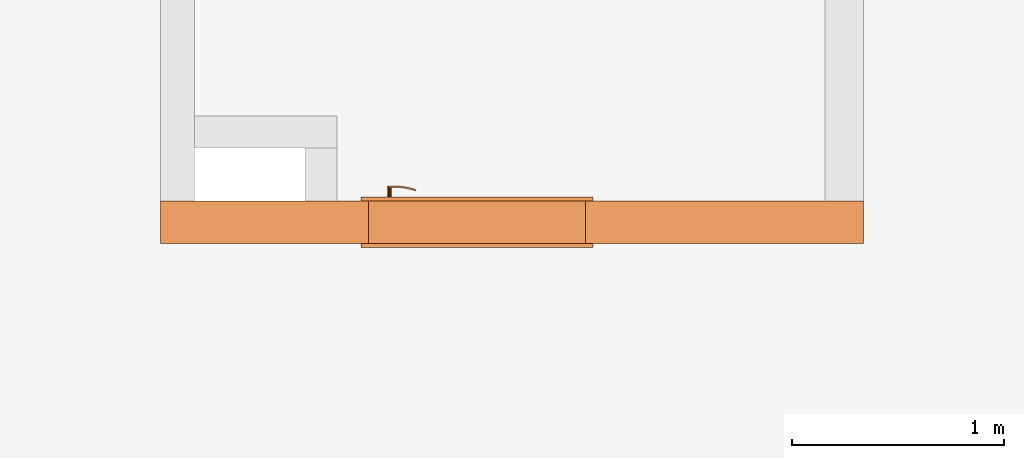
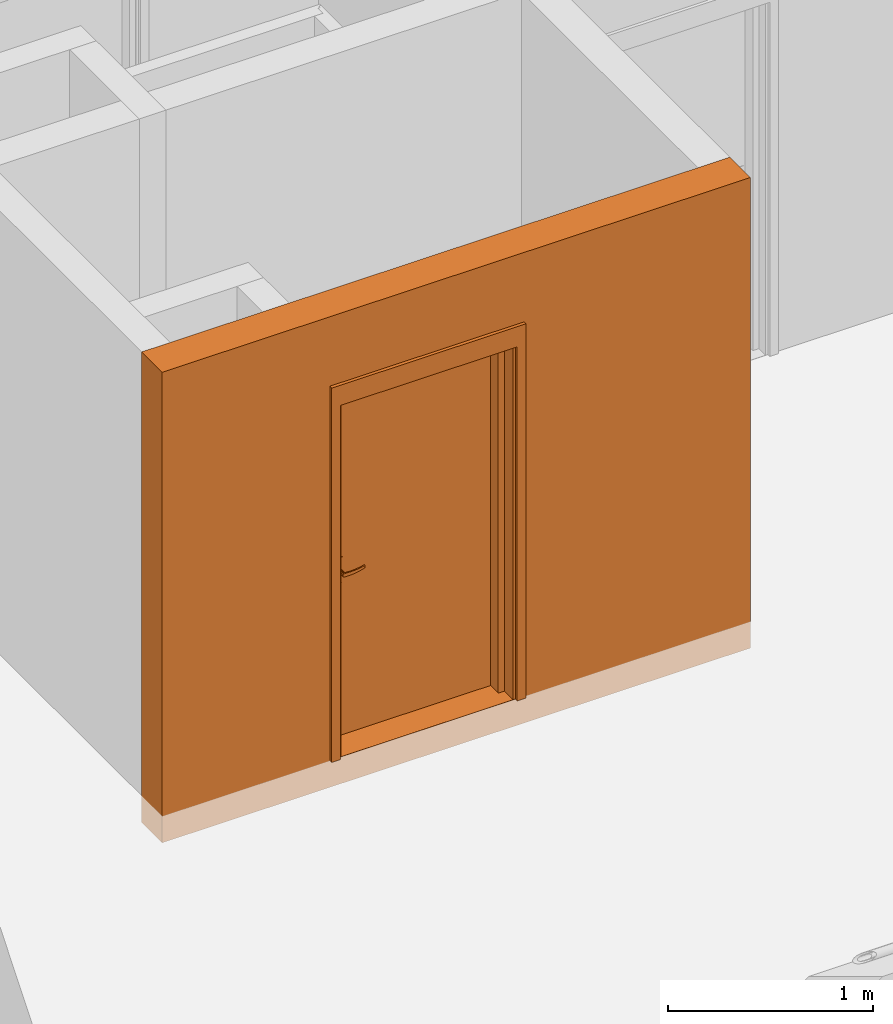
# One storey, part 20 of 67: 2 proxies, 1 opening.
"""IFC2X3 building model written with IfcOpenShell, lengths in millimetres."""

import ifcopenshell
import ifcopenshell.guid

model = None  # the IFC model being written
_history = None  # IfcOwnerHistory: only IFC2X3 demands one
_inside = {}  # id of a spatial element -> (the spatial element, [elements in it])
_under = {}  # id of a project, library or spatial element -> (it, [spatial elements below it])
_declared = {}  # id of a project -> (the project, [libraries it declares])
_typed = {}  # id of a type object -> (the type object, [elements of that type])
_made_of = {}  # id of a material, layer set ... -> (it, [elements and type objects made of it])


def new_model(schema):
    """Start an empty IFC model of exactly this schema.

    Asked for "IFC4X3", IfcOpenShell would pick the latest addendum, in which some entities
    have other attributes; the version numbers below select the first issue.
    IFC2X3 requires an IfcOwnerHistory on every rooted entity: one is made here for all.
    """
    global model, _history
    if schema == "IFC4X3":
        model = ifcopenshell.file(schema_version=(4, 3, 0, 0))
    else:
        model = ifcopenshell.file(schema=schema)
    _inside.clear()
    _under.clear()
    _declared.clear()
    _typed.clear()
    _made_of.clear()
    _history = None
    if model.schema == "IFC2X3":
        org = make("IfcOrganization", Name="unknown")
        user = make(
            "IfcPersonAndOrganization",
            ThePerson=make("IfcPerson", FamilyName="unknown"),
            TheOrganization=org,
        )
        app = make(
            "IfcApplication",
            ApplicationDeveloper=org,
            Version="unknown",
            ApplicationFullName="unknown",
            ApplicationIdentifier="unknown",
        )
        _history = make(
            "IfcOwnerHistory",
            OwningUser=user,
            OwningApplication=app,
            ChangeAction="ADDED",
            CreationDate=0,
        )
    return model


def make(cls, **values):
    """One entity of the class cls with the attributes given. An attribute that is None is left unset."""
    return model.create_entity(
        cls, **{name: value for name, value in values.items() if value is not None}
    )


def entity(cls, *values):
    """Any entity or typed value of the class cls, its attributes in the order of the schema. None: left unset."""
    e = model.create_entity(cls)
    for i, value in enumerate(values):
        if value is not None:
            e[i] = value
    return e


def rooted(cls, **values):
    """An entity with a GlobalId (a new one), such as an element, a storey or a relation."""
    return make(cls, GlobalId=ifcopenshell.guid.new(), OwnerHistory=_history, **values)


def si_unit(unit_type, name, prefix=None):
    """IfcSIUnit, for example si_unit("LENGTHUNIT", "METRE", prefix="MILLI")."""
    return make("IfcSIUnit", UnitType=unit_type, Prefix=prefix, Name=name)


def converted_unit(unit_type, name, factor, base, dimensions=None, offset=None):
    """IfcConversionBasedUnit, such as the inch: factor (a typed value) times the base unit."""
    return make(
        "IfcConversionBasedUnit"
        if offset is None
        else "IfcConversionBasedUnitWithOffset",
        ConversionOffset=offset,
        Dimensions=None
        if dimensions is None
        else entity("IfcDimensionalExponents", *dimensions),
        UnitType=unit_type,
        Name=name,
        ConversionFactor=make(
            "IfcMeasureWithUnit", ValueComponent=factor, UnitComponent=base
        ),
    )


def derived_unit(unit_type, elements):
    """IfcDerivedUnit: a product of units, each with its exponent."""
    return make(
        "IfcDerivedUnit",
        Elements=[
            make("IfcDerivedUnitElement", Unit=unit, Exponent=power)
            for unit, power in elements
        ],
        UnitType=unit_type,
    )


def money_unit(currency):
    """IfcMonetaryUnit."""
    return make("IfcMonetaryUnit", Currency=currency)


def assignment(units):
    """IfcUnitAssignment: the units of a project."""
    return None if units is None else make("IfcUnitAssignment", Units=units)


def point(xyz):
    """IfcCartesianPoint."""
    return None if xyz is None else make("IfcCartesianPoint", Coordinates=xyz)


def direction(xyz):
    """IfcDirection."""
    return None if xyz is None else make("IfcDirection", DirectionRatios=xyz)


def frame(location, z_axis=None, x_axis=None):
    """IfcAxis2Placement3D, a coordinate frame: its origin and axes. An axis left out is left unset."""
    return make(
        "IfcAxis2Placement3D",
        Location=point(location),
        Axis=direction(z_axis),
        RefDirection=direction(x_axis),
    )


def frame_2d(location, x_axis=None):
    """IfcAxis2Placement2D, a coordinate frame in the plane: its origin and x axis."""
    return make(
        "IfcAxis2Placement2D", Location=point(location), RefDirection=direction(x_axis)
    )


def origin_with_axes():
    """The frame at (0, 0, 0) with the z axis (0, 0, 1) and the x axis (1, 0, 0) written out."""
    return frame((0.0, 0.0, 0.0), z_axis=(0.0, 0.0, 1.0), x_axis=(1.0, 0.0, 0.0))


def origin_2d_with_axis():
    """The frame at (0, 0) in the plane with the x axis (1, 0) written out."""
    return frame_2d((0.0, 0.0), x_axis=(1.0, 0.0))


def place(relative_to, where):
    """IfcLocalPlacement: puts the frame where relative to a parent placement (None: the world)."""
    return make(
        "IfcLocalPlacement", PlacementRelTo=relative_to, RelativePlacement=where
    )


def context(
    kind, dimensions, precision=None, world=None, true_north=None, identifier=None
):
    """IfcGeometricRepresentationContext, for example the 3D "Model" context."""
    return make(
        "IfcGeometricRepresentationContext",
        ContextIdentifier=identifier,
        ContextType=kind,
        CoordinateSpaceDimension=dimensions,
        Precision=precision,
        WorldCoordinateSystem=world,
        TrueNorth=true_north,
    )


def subcontext(parent, identifier, kind, view, scale=None):
    """IfcGeometricRepresentationSubContext, for example "Body" below "Model"."""
    return make(
        "IfcGeometricRepresentationSubContext",
        ContextIdentifier=identifier,
        ContextType=kind,
        ParentContext=parent,
        TargetScale=scale,
        TargetView=view,
    )


def project(units=None, contexts=None):
    """IfcProject with its units and contexts."""
    return rooted(
        "IfcProject",
        Name="project",
        RepresentationContexts=contexts,
        UnitsInContext=assignment(units),
    )


def spatial(cls, under=None, at=None, **own):
    """A site, building, storey or space (cls), placed at a placement, below another one or the project."""
    s = rooted(cls, ObjectPlacement=at, **own)
    if under is not None:
        _under.setdefault(under.id(), (under, []))[1].append(s)
    return s


def profile(cls, at=None, kind="AREA", **sizes):
    """A parametric profile (cls). Its sizes go by their IFC names, for example OverallWidth=200.0."""
    return make(cls, ProfileType=kind, Position=at, **sizes)


def rectangle(**sizes):
    """IfcRectangleProfileDef."""
    return profile("IfcRectangleProfileDef", **sizes)


def extrude(swept, where, along, depth):
    """IfcExtrudedAreaSolid: the profile swept, set in the frame where, extruded along a direction by depth."""
    return make(
        "IfcExtrudedAreaSolid",
        SweptArea=swept,
        Position=where,
        ExtrudedDirection=direction(along),
        Depth=depth,
    )


def faces_of(points, faces, orient=None, outer=None):
    """IfcFace entities. A face is a list of loops; a loop is a list of indices into points, from 0.

    orient and outer hold one flag for each loop. By default every Orientation is true, the
    first loop of a face is its IfcFaceOuterBound and the others are IfcFaceBound.
    """
    made = []
    for i, loops in enumerate(faces):
        bounds = []
        for j, loop in enumerate(loops):
            is_outer = j == 0 if outer is None else outer[i][j]
            bounds.append(
                make(
                    "IfcFaceOuterBound" if is_outer else "IfcFaceBound",
                    Bound=make("IfcPolyLoop", Polygon=[points[k] for k in loop]),
                    Orientation=True if orient is None else orient[i][j],
                )
            )
        made.append(make("IfcFace", Bounds=bounds))
    return made


def open_shell(faces, orient=None, outer=None):
    """The faces of one IfcOpenShell. surface_model builds it on its shared points."""
    return ("IfcOpenShell", faces, orient, outer)


def faceted_brep(points, faces, orient=None, outer=None, voids=None):
    """IfcFacetedBrep: a solid bounded by flat faces; with voids (closed shells), ...WithVoids."""
    shared = [point(p) for p in points]
    hull = make("IfcClosedShell", CfsFaces=faces_of(shared, faces, orient, outer))
    if voids is None:
        return make("IfcFacetedBrep", Outer=hull)
    return make(
        "IfcFacetedBrepWithVoids",
        Outer=hull,
        Voids=[
            make(cls, CfsFaces=faces_of(shared, fs, o, b)) for cls, fs, o, b in voids
        ],
    )


def surface_model(cls, points, shells):
    """IfcFaceBasedSurfaceModel or IfcShellBasedSurfaceModel (cls): surfaces that need not close."""
    shared = [point(p) for p in points]
    made = [make(c, CfsFaces=faces_of(shared, fs, o, b)) for c, fs, o, b in shells]
    if cls == "IfcFaceBasedSurfaceModel":
        return make(cls, FbsmFaces=made)
    return make(cls, SbsmBoundary=made)


def shape(context_of_items, identifier, shape_type, items):
    """IfcShapeRepresentation: the items that make up one representation, for example the "Body"."""
    return make(
        "IfcShapeRepresentation",
        ContextOfItems=context_of_items,
        RepresentationIdentifier=identifier,
        RepresentationType=shape_type,
        Items=items,
    )


def source(mapping_origin, context_of_items, identifier, shape_type, items):
    """IfcRepresentationMap: a shape defined once, which mapped items show again and again."""
    return make(
        "IfcRepresentationMap",
        MappingOrigin=mapping_origin,
        MappedRepresentation=shape(context_of_items, identifier, shape_type, items),
    )


def transform(
    local_origin,
    x_axis=None,
    y_axis=None,
    z_axis=None,
    scale=None,
    scale2=None,
    scale3=None,
    uniform=True,
):
    """IfcCartesianTransformationOperator3D, or its non-uniform kind. x_axis, y_axis, z_axis: its Axis1, 2, 3."""
    if uniform:
        return make(
            "IfcCartesianTransformationOperator3D",
            Axis1=direction(x_axis),
            Axis2=direction(y_axis),
            LocalOrigin=point(local_origin),
            Scale=scale,
            Axis3=direction(z_axis),
        )
    return make(
        "IfcCartesianTransformationOperator3DnonUniform",
        Axis1=direction(x_axis),
        Axis2=direction(y_axis),
        LocalOrigin=point(local_origin),
        Scale=scale,
        Axis3=direction(z_axis),
        Scale2=scale2,
        Scale3=scale3,
    )


def mapped(mapping_source, mapping_target):
    """IfcMappedItem: shows the shape of a source again, moved by a transform."""
    return make(
        "IfcMappedItem", MappingSource=mapping_source, MappingTarget=mapping_target
    )


def material(Name=None, Category=None):
    """IfcMaterial."""
    return make("IfcMaterial", Name=Name, Category=Category)


def made_of(thing, what):
    """Note that an element or type object is made of a material, layer set ...; save() writes the relation."""
    if what is not None:
        _made_of.setdefault(what.id(), (what, []))[1].append(thing)
    return thing


def type_object(cls, material=None, **own):
    """A type object (cls), such as IfcWallType, which elements share."""
    return made_of(rooted(cls, **own), material)


def element(
    cls,
    number,
    at=None,
    inside=None,
    cuts=None,
    type_object=None,
    material=None,
    context=None,
    identifier="Body",
    shape_type=None,
    held_by="IfcProductDefinitionShape",
    body=None,
    shapes=None,
    **own,
):
    """One element of the class cls, such as IfcWall. Its Tag is "e" and its number.

    at: its placement. inside: the storey or other place that contains it. cuts: it is an
    opening in that element (IfcRelVoidsElement). A single representation is given by context,
    identifier, shape_type and body (its items); several are given by shapes. held_by: the class
    of the entity that holds the representations. save() writes the other relations.
    """
    e = rooted(cls, Tag="e%d" % number, ObjectPlacement=at, **own)
    if body is not None:
        shapes = [shape(context, identifier, shape_type, body)]
    if shapes is not None:
        e.Representation = make(held_by, Representations=shapes)
    if inside is not None:
        _inside.setdefault(inside.id(), (inside, []))[1].append(e)
    if cuts is not None:
        rooted(
            "IfcRelVoidsElement", RelatingBuildingElement=cuts, RelatedOpeningElement=e
        )
    if type_object is not None:
        _typed.setdefault(type_object.id(), (type_object, []))[1].append(e)
    return made_of(e, material)


def fill(opening, filler):
    """IfcRelFillsElement: the door or window that sits in an opening."""
    return rooted(
        "IfcRelFillsElement",
        RelatingOpeningElement=opening,
        RelatedBuildingElement=filler,
    )


def aggregate(whole, parts):
    """IfcRelAggregates: a whole, such as a stair, and the parts it consists of."""
    return rooted("IfcRelAggregates", RelatingObject=whole, RelatedObjects=parts)


def save(model, path):
    """Write the relations noted so far, then the file.

    IfcRelAggregates (storeys below a building ...), IfcRelContainedInSpatialStructure (elements
    in a storey), IfcRelDefinesByType, IfcRelAssociatesMaterial and IfcRelDeclares: one each for
    every whole, place, type object, material and project.
    """
    for whole, parts in _under.values():
        aggregate(whole, parts)
    for where, things in _inside.values():
        rooted(
            "IfcRelContainedInSpatialStructure",
            RelatedElements=things,
            RelatingStructure=where,
        )
    for kind, things in _typed.values():
        rooted("IfcRelDefinesByType", RelatedObjects=things, RelatingType=kind)
    for what, things in _made_of.values():
        rooted("IfcRelAssociatesMaterial", RelatedObjects=things, RelatingMaterial=what)
    for by, libraries in _declared.values():
        rooted("IfcRelDeclares", RelatingContext=by, RelatedDefinitions=libraries)
    model.write(path)


model = new_model("IFC2X3")

# Units and contexts
model_context = context("Model", 3, precision=0.01, world=origin_with_axes(), true_north=direction((0.34421633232, 0.938890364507)))
body_context = subcontext(model_context, "Body", "Model", "MODEL_VIEW")
ifc_project = project(units=[si_unit("LENGTHUNIT", "METRE", prefix="MILLI"), si_unit("AREAUNIT", "SQUARE_METRE"), si_unit("VOLUMEUNIT", "CUBIC_METRE"), converted_unit("PLANEANGLEUNIT", "DEGREE", entity("IfcPlaneAngleMeasure", 0.0174532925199), si_unit("PLANEANGLEUNIT", "RADIAN"), dimensions=[0, 0, 0, 0, 0, 0, 0]), si_unit("SOLIDANGLEUNIT", "STERADIAN"), money_unit("USD"), converted_unit("TIMEUNIT", "Year", entity("IfcTimeMeasure", 31556926.0), si_unit("TIMEUNIT", "SECOND"), dimensions=[0, 0, 1, 0, 0, 0, 0]), si_unit("MASSUNIT", "GRAM", prefix="KILO"), si_unit("THERMODYNAMICTEMPERATUREUNIT", "DEGREE_CELSIUS"), si_unit("LUMINOUSINTENSITYUNIT", "LUMEN"), si_unit("ENERGYUNIT", "JOULE", prefix="MEGA"), derived_unit("THERMALCONDUCTANCEUNIT", [(si_unit("POWERUNIT", "WATT"), 1), (si_unit("LENGTHUNIT", "METRE"), -1), (si_unit("THERMODYNAMICTEMPERATUREUNIT", "KELVIN"), -1)]), derived_unit("SPECIFICHEATCAPACITYUNIT", [(si_unit("ENERGYUNIT", "JOULE"), 1), (si_unit("MASSUNIT", "GRAM", prefix="KILO"), -1), (si_unit("THERMODYNAMICTEMPERATUREUNIT", "KELVIN"), -1)]), derived_unit("MASSDENSITYUNIT", [(si_unit("MASSUNIT", "GRAM", prefix="KILO"), 1), (si_unit("VOLUMEUNIT", "CUBIC_METRE"), -1)])], contexts=[model_context])

# Site, building, storey
site_placement = place(None, origin_with_axes())
site = spatial("IfcSite", under=ifc_project, at=site_placement, Name="USTRONIE MORSKIE", CompositionType="ELEMENT")
building_placement = place(site_placement, origin_with_axes())
building = spatial("IfcBuilding", under=site, at=building_placement, Name="Budynek", CompositionType="ELEMENT")
storey_placement = place(building_placement, frame((0.0, 0.0, 4000.0), z_axis=(0.0, 0.0, 1.0), x_axis=(1.0, 0.0, 0.0)))
storey = spatial("IfcBuildingStorey", under=building, at=storey_placement, Name="PIĘTRO 1", CompositionType="ELEMENT", Elevation=4000.0)

# Proxies, opening
ifc_material = material(Name="Beton konstrukcyjny B25")
building_element_proxy_type_1 = type_object("IfcBuildingElementProxyType", Name="Beton konstrukcyjny B25 200", PredefinedType="NOTDEFINED")
proxy_1_placement = place(storey_placement, frame((359617.920919, 738801.199036, -160.0), z_axis=(0.0, 0.0, 1.0), x_axis=(1.0, 0.0, 0.0)))
proxy_1 = element("IfcBuildingElementProxy", 1, at=proxy_1_placement, inside=storey, type_object=building_element_proxy_type_1, material=ifc_material, Name="SW-01", context=body_context, shape_type="Brep", body=[
    faceted_brep([(-80.0, 100.0, 0.0), (3229.99995481, 100.0, 0.0), (3229.99995481, -100.0, 0.0), (-80.0, -100.0, 0.0), (-80.0, 100.0, 2800.0), (3229.99995481, 100.0, 2800.0), (3229.99995481, -100.0, 2800.0), (-80.0, -100.0, 2800.0)], [[[0, 1, 2, 3]], [[4, 5, 1, 0]], [[2, 1, 5, 6]], [[3, 2, 6, 7]], [[4, 0, 3, 7]], [[7, 6, 5, 4]]]),
])
opening_placement = place(proxy_1_placement, frame((1410.0, 0.0, 160.0), z_axis=(0.0, 0.0, 1.0), x_axis=(1.0, 0.0, 0.0)))
opening = element("IfcOpeningElement", 2, at=opening_placement, cuts=proxy_1, Name="Dw.2", context=body_context, shape_type="SweptSolid", body=[
    extrude(rectangle(XDim=1020.0, YDim=2120.0, at=origin_2d_with_axis()), frame((0.0, -200.0, 1060.0), z_axis=(0.0, 1.0, 0.0), x_axis=(1.0, 0.0, 0.0)), (0.0, 0.0, 1.0), 600.0),
    extrude(rectangle(XDim=1094.0, YDim=2227.0, at=origin_2d_with_axis()), frame((0.0, -100.0, 1113.5), z_axis=(0.0, 1.0, 0.0), x_axis=(1.0, 0.0, 0.0)), (0.0, 0.0, -1.0), 200.0),
    extrude(rectangle(XDim=1094.0, YDim=2227.0, at=origin_2d_with_axis()), frame((0.0, 100.0, 1113.5), z_axis=(0.0, -1.0, 0.0), x_axis=(1.0, 0.0, 0.0)), (0.0, 0.0, -1.0), 200.0),
])
building_element_proxy_type_2 = type_object("IfcBuildingElementProxyType", Name="Drzwi 23", PredefinedType="NOTDEFINED")
shared_shape = source(origin_with_axes(), body_context, "Body", "SurfaceModel", [
    faceted_brep([(-510.0, -115.0, 0.0), (-485.0, -115.0, 0.0), (-485.0, -200.0, 0.0), (-510.0, -200.0, 0.0), (-510.0, -115.0, 2120.0), (-485.0, -115.0, 2095.0), (-485.0, -200.0, 2095.0), (-510.0, -200.0, 2120.0)], [[[0, 1, 2, 3]], [[0, 4, 5, 1]], [[1, 5, 6, 2]], [[3, 2, 6, 7]], [[4, 0, 3, 7]], [[5, 4, 7, 6]]]),
    faceted_brep([(510.0, -115.0, 2120.0), (485.0, -115.0, 2095.0), (485.0, -200.0, 2095.0), (510.0, -200.0, 2120.0), (510.0, -115.0, 0.0), (485.0, -115.0, 0.0), (485.0, -200.0, 0.0), (510.0, -200.0, 0.0)], [[[0, 1, 2, 3]], [[0, 4, 5, 1]], [[1, 5, 6, 2]], [[3, 2, 6, 7]], [[4, 0, 3, 7]], [[5, 4, 7, 6]]]),
    faceted_brep([(-485.0, -115.0, 2095.0), (485.0, -115.0, 2095.0), (485.0, -200.0, 2095.0), (-485.0, -200.0, 2095.0), (-510.0, -115.0, 2120.0), (510.0, -115.0, 2120.0), (510.0, -200.0, 2120.0), (-510.0, -200.0, 2120.0)], [[[0, 1, 2, 3]], [[0, 4, 5, 1]], [[1, 5, 6, 2]], [[3, 2, 6, 7]], [[4, 0, 3, 7]], [[5, 4, 7, 6]]]),
    faceted_brep([(-547.0, -219.0, 0.0), (-547.0, -200.0, 0.0), (-497.0, -200.0, 0.0), (-497.0, -219.0, 0.0), (-547.0, -219.0, 2227.0), (-547.0, -200.0, 2227.0), (-497.0, -200.0, 2107.0), (-497.0, -219.0, 2107.0)], [[[0, 1, 2, 3]], [[4, 5, 1, 0]], [[1, 5, 6, 2]], [[3, 2, 6, 7]], [[0, 3, 7, 4]], [[7, 6, 5, 4]]]),
    faceted_brep([(547.0, -219.0, 2227.0), (547.0, -200.0, 2227.0), (497.0, -200.0, 2107.0), (497.0, -219.0, 2107.0), (547.0, -219.0, 0.0), (547.0, -200.0, 0.0), (497.0, -200.0, 0.0), (497.0, -219.0, 0.0)], [[[0, 1, 2, 3]], [[4, 5, 1, 0]], [[1, 5, 6, 2]], [[3, 2, 6, 7]], [[0, 3, 7, 4]], [[7, 6, 5, 4]]]),
    faceted_brep([(-547.0, -219.0, 2227.0), (-547.0, -200.0, 2227.0), (-497.0, -200.0, 2107.0), (-497.0, -219.0, 2107.0), (547.0, -219.0, 2227.0), (547.0, -200.0, 2227.0), (497.0, -200.0, 2107.0), (497.0, -219.0, 2107.0)], [[[0, 1, 2, 3]], [[4, 5, 1, 0]], [[1, 5, 6, 2]], [[3, 2, 6, 7]], [[0, 3, 7, 4]], [[7, 6, 5, 4]]]),
    faceted_brep([(-547.0, 19.0, 0.0), (-497.0, 19.0, 0.0), (-497.0, 0.0, 0.0), (-547.0, 0.0, 0.0), (-547.0, 19.0, 2227.0), (-497.0, 19.0, 2107.0), (-497.0, 0.0, 2107.0), (-547.0, 0.0, 2227.0)], [[[0, 1, 2, 3]], [[0, 4, 5, 1]], [[1, 5, 6, 2]], [[3, 2, 6, 7]], [[4, 0, 3, 7]], [[5, 4, 7, 6]]]),
    faceted_brep([(547.0, 19.0, 2227.0), (497.0, 19.0, 2107.0), (497.0, 0.0, 2107.0), (547.0, 0.0, 2227.0), (547.0, 19.0, 0.0), (497.0, 19.0, 0.0), (497.0, 0.0, 0.0), (547.0, 0.0, 0.0)], [[[0, 1, 2, 3]], [[0, 4, 5, 1]], [[1, 5, 6, 2]], [[3, 2, 6, 7]], [[4, 0, 3, 7]], [[5, 4, 7, 6]]]),
    faceted_brep([(-547.0, 19.0, 2227.0), (-497.0, 19.0, 2107.0), (-497.0, 0.0, 2107.0), (-547.0, 0.0, 2227.0), (547.0, 19.0, 2227.0), (497.0, 19.0, 2107.0), (497.0, 0.0, 2107.0), (547.0, 0.0, 2227.0)], [[[0, 1, 2, 3]], [[0, 4, 5, 1]], [[1, 5, 6, 2]], [[3, 2, 6, 7]], [[4, 0, 3, 7]], [[5, 4, 7, 6]]]),
    faceted_brep([(-450.0, -40.0, 0.0), (-450.0, -40.0, 2050.0), (-450.0, -115.0, 2050.0), (-450.0, -115.0, 0.0), (-462.0, -40.0, 2050.0), (-462.0, -40.0, 0.0), (-462.0, 0.0, 2050.0), (-510.0, 0.0, 2050.0), (-510.0, -115.0, 2050.0), (-510.0, -115.0, 0.0), (-510.0, 0.0, 0.0), (-462.0, 0.0, 0.0)], [[[0, 1, 2, 3]], [[4, 1, 0, 5]], [[4, 6, 7, 8, 2, 1]], [[3, 2, 8, 9]], [[5, 0, 3, 9, 10, 11]], [[6, 4, 5, 11]], [[6, 11, 10, 7]], [[10, 9, 8, 7]]]),
    faceted_brep([(462.0, -40.0, 2050.0), (450.0, -40.0, 2050.0), (450.0, -115.0, 2050.0), (510.0, -115.0, 2050.0), (510.0, 0.0, 2050.0), (462.0, 0.0, 2050.0), (462.0, -40.0, 0.0), (450.0, -40.0, 0.0), (450.0, -115.0, 0.0), (510.0, -115.0, 0.0), (510.0, 0.0, 0.0), (462.0, 0.0, 0.0)], [[[0, 1, 2, 3, 4, 5]], [[1, 0, 6, 7]], [[1, 7, 8, 2]], [[3, 2, 8, 9]], [[4, 3, 9, 10]], [[11, 5, 4, 10]], [[0, 5, 11, 6]], [[6, 11, 10, 9, 8, 7]]]),
    faceted_brep([(-462.0, 0.0, 2062.0), (-462.0, 0.0, 2050.0), (-510.0, 0.0, 2050.0), (-510.0, 0.0, 2120.0), (510.0, 0.0, 2120.0), (510.0, 0.0, 2050.0), (462.0, 0.0, 2050.0), (462.0, 0.0, 2062.0), (-462.0, -40.0, 2062.0), (-462.0, -40.0, 2050.0), (-450.0, -40.0, 2050.0), (-450.0, -115.0, 2050.0), (-510.0, -115.0, 2050.0), (-510.0, -115.0, 2120.0), (510.0, -115.0, 2120.0), (510.0, -115.0, 2050.0), (462.0, -40.0, 2050.0), (450.0, -115.0, 2050.0), (450.0, -40.0, 2050.0), (462.0, -40.0, 2062.0)], [[[0, 1, 2, 3, 4, 5, 6, 7]], [[1, 0, 8, 9]], [[9, 10, 11, 12, 2, 1]], [[2, 12, 13, 3]], [[3, 13, 14, 4]], [[4, 14, 15, 5]], [[16, 6, 5, 15, 17, 18]], [[7, 6, 16, 19]], [[0, 7, 19, 8]], [[16, 18, 10, 9, 8, 19]], [[10, 18, 17, 11]], [[17, 15, 14, 13, 12, 11]]]),
    faceted_brep([(-440.5, -40.0, 1060.0), (-440.5, -43.0, 1060.0), (-383.5, -43.0, 1060.0), (-383.5, -40.0, 1060.0), (-440.5, -40.0, 870.0), (-440.5, -43.0, 870.0), (-383.5, -43.0, 870.0), (-383.5, -40.0, 870.0)], [[[0, 1, 2, 3]], [[4, 5, 1, 0]], [[1, 5, 6, 2]], [[3, 2, 6, 7]], [[0, 3, 7, 4]], [[7, 6, 5, 4]]]),
    faceted_brep([(-412.0, -104.0, 990.0), (-412.0, -111.0, 990.0), (-417.0, -111.0, 991.339745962), (-417.0, -104.0, 991.339745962), (-387.0, -104.0, 990.0), (-387.0, -111.0, 990.0), (-387.0, -111.0, 1010.0), (-412.0, -111.0, 1010.0), (-417.0, -111.0, 1008.66025404), (-420.660254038, -111.0, 1005.0), (-422.0, -111.0, 1000.0), (-420.660254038, -111.0, 995.0), (-420.660254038, -104.0, 995.0), (-422.0, -104.0, 1000.0), (-420.660254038, -104.0, 1005.0), (-417.0, -104.0, 1008.66025404), (-412.0, -104.0, 1010.0), (-387.0, -104.0, 1010.0)], [[[0, 1, 2, 3]], [[4, 5, 1, 0]], [[1, 5, 6, 7, 8, 9, 10, 11, 2]], [[3, 2, 11, 12]], [[0, 3, 12, 13, 14, 15, 16, 17, 4]], [[17, 6, 5, 4]], [[16, 7, 6, 17]], [[15, 8, 7, 16]], [[14, 9, 8, 15]], [[13, 10, 9, 14]], [[12, 11, 10, 13]]]),
    surface_model("IfcShellBasedSurfaceModel", [(-387.0, -104.0, 1010.0), (-373.596090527, -111.0, 1009.60730092), (-373.901717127, -104.0, 1009.60730092), (-387.0, -111.0, 1010.0), (-346.890283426, -108.663544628, 1008.82190275), (-373.901717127, -104.0, 990.392699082), (-387.0, -104.0, 990.0), (-387.0, -111.0, 990.0), (-373.596090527, -111.0, 990.392699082), (-346.890283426, -108.663544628, 991.178097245), (-347.804837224, -101.716818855, 1008.82190275), (-347.804837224, -101.716818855, 991.178097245), (-320.489735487, -104.008415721, 991.963495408), (-320.489735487, -104.008415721, 1008.03650459), (-322.006256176, -97.1678329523, 1008.03650459), (-322.006256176, -97.1678329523, 991.963495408), (-294.59537082, -97.0700416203, 992.748893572), (-294.59537082, -97.0700416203, 1007.25110643), (-296.702316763, -90.3876628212, 1007.25110643), (-296.702316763, -90.3876628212, 992.748893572), (-286.538795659, -94.1376880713, 993.0), (-286.538795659, -94.1376880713, 1007.0), (-288.829442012, -87.5221707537, 1007.0), (-288.829442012, -87.5221707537, 993.0)], [open_shell([[[0, 1, 2]], [[0, 3, 1]], [[2, 1, 4]], [[0, 2, 5, 6]], [[3, 7, 8, 1]], [[1, 8, 9, 4]], [[2, 4, 10]], [[2, 10, 11, 5]], [[5, 7, 6]], [[5, 8, 7]], [[11, 9, 8]], [[4, 9, 12, 13]], [[10, 4, 13]], [[10, 14, 15, 11]], [[11, 8, 5]], [[15, 9, 11]], [[15, 12, 9]], [[13, 12, 16, 17]], [[10, 13, 14]], [[14, 18, 19, 15]], [[19, 12, 15]], [[19, 16, 12]], [[17, 16, 20, 21]], [[14, 13, 17]], [[14, 17, 18]], [[18, 22, 23, 19]], [[23, 16, 19]], [[23, 20, 16]], [[22, 21, 20, 23]], [[18, 17, 21]], [[18, 21, 22]]])]),
    faceted_brep([(-401.607695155, -53.0, 994.0), (-400.741669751, -43.0, 993.5), (-399.0, -43.0, 1000.0), (-400.0, -53.0, 1000.0), (-406.0, -53.0, 989.607695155), (-405.5, -43.0, 988.741669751), (-412.0, -43.0, 987.0), (-418.5, -43.0, 988.741669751), (-423.258330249, -43.0, 993.5), (-425.0, -43.0, 1000.0), (-423.258330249, -43.0, 1006.5), (-418.5, -43.0, 1011.25833025), (-412.0, -43.0, 1013.0), (-405.5, -43.0, 1011.25833025), (-400.741669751, -43.0, 1006.5), (-401.607695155, -53.0, 1006.0), (-406.0, -53.0, 1010.39230485), (-412.0, -53.0, 1012.0), (-418.0, -53.0, 1010.39230485), (-422.392304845, -53.0, 1006.0), (-424.0, -53.0, 1000.0), (-422.392304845, -53.0, 994.0), (-418.0, -53.0, 989.607695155), (-412.0, -53.0, 988.0)], [[[0, 1, 2, 3]], [[4, 5, 1, 0]], [[2, 1, 5, 6, 7, 8, 9, 10, 11, 12, 13, 14]], [[3, 2, 14, 15]], [[3, 15, 16, 17, 18, 19, 20, 21, 22, 23, 4, 0]], [[23, 6, 5, 4]], [[22, 7, 6, 23]], [[21, 8, 7, 22]], [[20, 9, 8, 21]], [[19, 10, 9, 20]], [[18, 11, 10, 19]], [[17, 12, 11, 18]], [[16, 13, 12, 17]], [[15, 14, 13, 16]]]),
    faceted_brep([(-394.679491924, -47.0, 895.0), (-392.947441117, -43.0, 894.0), (-390.0, -43.0, 905.0), (-392.0, -47.0, 905.0), (-402.0, -47.0, 887.679491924), (-401.0, -43.0, 885.947441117), (-412.0, -43.0, 883.0), (-423.0, -43.0, 885.947441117), (-431.052558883, -43.0, 894.0), (-434.0, -43.0, 905.0), (-431.052558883, -43.0, 916.0), (-423.0, -43.0, 924.052558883), (-412.0, -43.0, 927.0), (-401.0, -43.0, 924.052558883), (-392.947441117, -43.0, 916.0), (-394.679491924, -47.0, 915.0), (-402.0, -47.0, 922.320508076), (-412.0, -47.0, 925.0), (-422.0, -47.0, 922.320508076), (-429.320508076, -47.0, 915.0), (-432.0, -47.0, 905.0), (-429.320508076, -47.0, 895.0), (-422.0, -47.0, 887.679491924), (-412.0, -47.0, 885.0)], [[[0, 1, 2, 3]], [[4, 5, 1, 0]], [[2, 1, 5, 6, 7, 8, 9, 10, 11, 12, 13, 14]], [[3, 2, 14, 15]], [[3, 15, 16, 17, 18, 19, 20, 21, 22, 23, 4, 0]], [[23, 6, 5, 4]], [[22, 7, 6, 23]], [[21, 8, 7, 22]], [[20, 9, 8, 21]], [[19, 10, 9, 20]], [[18, 11, 10, 19]], [[17, 12, 11, 18]], [[16, 13, 12, 17]], [[15, 14, 13, 16]]]),
    faceted_brep([(-407.050252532, -49.0, 909.050252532), (-406.343145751, -47.0, 908.343145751), (-404.0, -47.0, 914.0), (-405.0, -49.0, 914.0), (-412.0, -49.0, 907.0), (-412.0, -47.0, 906.0), (-417.656854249, -47.0, 908.343145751), (-420.0, -47.0, 914.0), (-417.656854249, -47.0, 919.656854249), (-412.0, -47.0, 922.0), (-406.343145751, -47.0, 919.656854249), (-407.050252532, -49.0, 918.949747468), (-412.0, -49.0, 921.0), (-416.949747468, -49.0, 918.949747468), (-419.0, -49.0, 914.0), (-416.949747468, -49.0, 909.050252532)], [[[0, 1, 2, 3]], [[4, 5, 1, 0]], [[2, 1, 5, 6, 7, 8, 9, 10]], [[3, 2, 10, 11]], [[3, 11, 12, 13, 14, 15, 4, 0]], [[15, 6, 5, 4]], [[14, 7, 6, 15]], [[13, 8, 7, 14]], [[12, 9, 8, 13]], [[11, 10, 9, 12]]]),
    faceted_brep([(-412.0, -53.0, 1010.0), (-412.0, -104.0, 1010.0), (-407.0, -104.0, 1008.66025404), (-407.0, -53.0, 1008.66025404), (-417.0, -53.0, 1008.66025404), (-417.0, -104.0, 1008.66025404), (-420.660254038, -104.0, 1005.0), (-422.0, -104.0, 1000.0), (-420.660254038, -104.0, 995.0), (-417.0, -104.0, 991.339745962), (-412.0, -104.0, 990.0), (-407.0, -104.0, 991.339745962), (-403.339745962, -104.0, 995.0), (-402.0, -104.0, 1000.0), (-403.339745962, -104.0, 1005.0), (-403.339745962, -53.0, 1005.0), (-402.0, -53.0, 1000.0), (-403.339745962, -53.0, 995.0), (-407.0, -53.0, 991.339745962), (-412.0, -53.0, 990.0), (-417.0, -53.0, 991.339745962), (-420.660254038, -53.0, 995.0), (-422.0, -53.0, 1000.0), (-420.660254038, -53.0, 1005.0)], [[[0, 1, 2, 3]], [[4, 5, 1, 0]], [[1, 5, 6, 7, 8, 9, 10, 11, 12, 13, 14, 2]], [[3, 2, 14, 15]], [[0, 3, 15, 16, 17, 18, 19, 20, 21, 22, 23, 4]], [[23, 6, 5, 4]], [[22, 7, 6, 23]], [[21, 8, 7, 22]], [[20, 9, 8, 21]], [[19, 10, 9, 20]], [[18, 11, 10, 19]], [[17, 12, 11, 18]], [[16, 13, 12, 17]], [[15, 14, 13, 16]]]),
    faceted_brep([(-440.5, 0.0, 1060.0), (-383.5, 0.0, 1060.0), (-383.5, 3.0, 1060.0), (-440.5, 3.0, 1060.0), (-440.5, 0.0, 870.0), (-383.5, 0.0, 870.0), (-383.5, 3.0, 870.0), (-440.5, 3.0, 870.0)], [[[0, 1, 2, 3]], [[0, 4, 5, 1]], [[1, 5, 6, 2]], [[3, 2, 6, 7]], [[4, 0, 3, 7]], [[5, 4, 7, 6]]]),
    faceted_brep([(-412.0, 64.0, 990.0), (-417.0, 64.0, 991.339745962), (-417.0, 71.0, 991.339745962), (-412.0, 71.0, 990.0), (-387.0, 64.0, 990.0), (-387.0, 64.0, 1010.0), (-412.0, 64.0, 1010.0), (-417.0, 64.0, 1008.66025404), (-420.660254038, 64.0, 1005.0), (-422.0, 64.0, 1000.0), (-420.660254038, 64.0, 995.0), (-420.660254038, 71.0, 995.0), (-422.0, 71.0, 1000.0), (-420.660254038, 71.0, 1005.0), (-417.0, 71.0, 1008.66025404), (-412.0, 71.0, 1010.0), (-387.0, 71.0, 1010.0), (-387.0, 71.0, 990.0)], [[[0, 1, 2, 3]], [[0, 4, 5, 6, 7, 8, 9, 10, 1]], [[1, 10, 11, 2]], [[3, 2, 11, 12, 13, 14, 15, 16, 17]], [[4, 0, 3, 17]], [[5, 4, 17, 16]], [[6, 5, 16, 15]], [[7, 6, 15, 14]], [[8, 7, 14, 13]], [[9, 8, 13, 12]], [[10, 9, 12, 11]]]),
    surface_model("IfcShellBasedSurfaceModel", [(-387.0, 64.0, 1010.0), (-373.901717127, 64.0, 1009.60730092), (-373.596090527, 71.0, 1009.60730092), (-387.0, 64.0, 990.0), (-373.901717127, 64.0, 990.392699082), (-346.890283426, 68.6635446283, 1008.82190275), (-387.0, 71.0, 1010.0), (-387.0, 71.0, 990.0), (-347.804837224, 61.716818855, 991.178097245), (-347.804837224, 61.716818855, 1008.82190275), (-346.890283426, 68.6635446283, 991.178097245), (-373.596090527, 71.0, 990.392699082), (-322.006256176, 57.1678329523, 991.963495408), (-322.006256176, 57.1678329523, 1008.03650459), (-320.489735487, 64.0084157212, 1008.03650459), (-320.489735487, 64.0084157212, 991.963495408), (-296.702316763, 50.3876628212, 992.748893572), (-296.702316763, 50.3876628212, 1007.25110643), (-294.59537082, 57.0700416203, 1007.25110643), (-294.59537082, 57.0700416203, 992.748893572), (-288.829442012, 47.5221707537, 993.0), (-288.829442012, 47.5221707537, 1007.0), (-286.538795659, 54.1376880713, 1007.0), (-286.538795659, 54.1376880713, 993.0)], [open_shell([[[0, 1, 2]], [[0, 3, 4, 1]], [[1, 5, 2]], [[0, 2, 6]], [[4, 3, 7]], [[1, 4, 8, 9]], [[1, 9, 5]], [[2, 5, 10, 11]], [[6, 2, 11, 7]], [[4, 7, 11]], [[8, 4, 11]], [[9, 8, 12, 13]], [[9, 14, 5]], [[5, 14, 15, 10]], [[8, 11, 10]], [[12, 8, 10]], [[13, 12, 16, 17]], [[9, 13, 14]], [[14, 18, 19, 15]], [[12, 10, 15]], [[16, 12, 15]], [[17, 16, 20, 21]], [[13, 17, 18]], [[13, 18, 14]], [[18, 22, 23, 19]], [[16, 15, 19]], [[20, 16, 19]], [[21, 20, 23, 22]], [[17, 21, 22]], [[17, 22, 18]], [[20, 19, 23]]])]),
    faceted_brep([(-401.607695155, 13.0, 994.0), (-400.0, 13.0, 1000.0), (-399.0, 3.0, 1000.0), (-400.741669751, 3.0, 993.5), (-406.0, 13.0, 989.607695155), (-412.0, 13.0, 988.0), (-418.0, 13.0, 989.607695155), (-422.392304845, 13.0, 994.0), (-424.0, 13.0, 1000.0), (-422.392304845, 13.0, 1006.0), (-418.0, 13.0, 1010.39230485), (-412.0, 13.0, 1012.0), (-406.0, 13.0, 1010.39230485), (-401.607695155, 13.0, 1006.0), (-400.741669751, 3.0, 1006.5), (-405.5, 3.0, 1011.25833025), (-412.0, 3.0, 1013.0), (-418.5, 3.0, 1011.25833025), (-423.258330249, 3.0, 1006.5), (-425.0, 3.0, 1000.0), (-423.258330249, 3.0, 993.5), (-418.5, 3.0, 988.741669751), (-412.0, 3.0, 987.0), (-405.5, 3.0, 988.741669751)], [[[0, 1, 2, 3]], [[1, 0, 4, 5, 6, 7, 8, 9, 10, 11, 12, 13]], [[1, 13, 14, 2]], [[2, 14, 15, 16, 17, 18, 19, 20, 21, 22, 23, 3]], [[4, 0, 3, 23]], [[5, 4, 23, 22]], [[6, 5, 22, 21]], [[7, 6, 21, 20]], [[8, 7, 20, 19]], [[9, 8, 19, 18]], [[10, 9, 18, 17]], [[11, 10, 17, 16]], [[12, 11, 16, 15]], [[13, 12, 15, 14]]]),
    faceted_brep([(-394.679491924, 7.0, 895.0), (-392.0, 7.0, 905.0), (-390.0, 3.0, 905.0), (-392.947441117, 3.0, 894.0), (-402.0, 7.0, 887.679491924), (-412.0, 7.0, 885.0), (-422.0, 7.0, 887.679491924), (-429.320508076, 7.0, 895.0), (-432.0, 7.0, 905.0), (-429.320508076, 7.0, 915.0), (-422.0, 7.0, 922.320508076), (-412.0, 7.0, 925.0), (-402.0, 7.0, 922.320508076), (-394.679491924, 7.0, 915.0), (-392.947441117, 3.0, 916.0), (-401.0, 3.0, 924.052558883), (-412.0, 3.0, 927.0), (-423.0, 3.0, 924.052558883), (-431.052558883, 3.0, 916.0), (-434.0, 3.0, 905.0), (-431.052558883, 3.0, 894.0), (-423.0, 3.0, 885.947441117), (-412.0, 3.0, 883.0), (-401.0, 3.0, 885.947441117)], [[[0, 1, 2, 3]], [[1, 0, 4, 5, 6, 7, 8, 9, 10, 11, 12, 13]], [[1, 13, 14, 2]], [[2, 14, 15, 16, 17, 18, 19, 20, 21, 22, 23, 3]], [[4, 0, 3, 23]], [[5, 4, 23, 22]], [[6, 5, 22, 21]], [[7, 6, 21, 20]], [[8, 7, 20, 19]], [[9, 8, 19, 18]], [[10, 9, 18, 17]], [[11, 10, 17, 16]], [[12, 11, 16, 15]], [[13, 12, 15, 14]]]),
    faceted_brep([(-407.050252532, 9.0, 909.050252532), (-405.0, 9.0, 914.0), (-404.0, 7.0, 914.0), (-406.343145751, 7.0, 908.343145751), (-412.0, 9.0, 907.0), (-416.949747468, 9.0, 909.050252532), (-419.0, 9.0, 914.0), (-416.949747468, 9.0, 918.949747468), (-412.0, 9.0, 921.0), (-407.050252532, 9.0, 918.949747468), (-406.343145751, 7.0, 919.656854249), (-412.0, 7.0, 922.0), (-417.656854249, 7.0, 919.656854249), (-420.0, 7.0, 914.0), (-417.656854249, 7.0, 908.343145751), (-412.0, 7.0, 906.0)], [[[0, 1, 2, 3]], [[1, 0, 4, 5, 6, 7, 8, 9]], [[1, 9, 10, 2]], [[2, 10, 11, 12, 13, 14, 15, 3]], [[4, 0, 3, 15]], [[5, 4, 15, 14]], [[6, 5, 14, 13]], [[7, 6, 13, 12]], [[8, 7, 12, 11]], [[9, 8, 11, 10]]]),
    faceted_brep([(-412.0, 13.0, 1010.0), (-407.0, 13.0, 1008.66025404), (-407.0, 64.0, 1008.66025404), (-412.0, 64.0, 1010.0), (-417.0, 13.0, 1008.66025404), (-420.660254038, 13.0, 1005.0), (-422.0, 13.0, 1000.0), (-420.660254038, 13.0, 995.0), (-417.0, 13.0, 991.339745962), (-412.0, 13.0, 990.0), (-407.0, 13.0, 991.339745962), (-403.339745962, 13.0, 995.0), (-402.0, 13.0, 1000.0), (-403.339745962, 13.0, 1005.0), (-403.339745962, 64.0, 1005.0), (-402.0, 64.0, 1000.0), (-403.339745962, 64.0, 995.0), (-407.0, 64.0, 991.339745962), (-412.0, 64.0, 990.0), (-417.0, 64.0, 991.339745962), (-420.660254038, 64.0, 995.0), (-422.0, 64.0, 1000.0), (-420.660254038, 64.0, 1005.0), (-417.0, 64.0, 1008.66025404)], [[[0, 1, 2, 3]], [[0, 4, 5, 6, 7, 8, 9, 10, 11, 12, 13, 1]], [[1, 13, 14, 2]], [[3, 2, 14, 15, 16, 17, 18, 19, 20, 21, 22, 23]], [[4, 0, 3, 23]], [[5, 4, 23, 22]], [[6, 5, 22, 21]], [[7, 6, 21, 20]], [[8, 7, 20, 19]], [[9, 8, 19, 18]], [[10, 9, 18, 17]], [[11, 10, 17, 16]], [[12, 11, 16, 15]], [[13, 12, 15, 14]]]),
    faceted_brep([(462.0, 0.0, 0.0), (462.0, -40.0, 0.0), (-462.0, -40.0, 0.0), (-462.0, 0.0, 0.0), (462.0, 0.0, 2062.0), (462.0, -40.0, 2062.0), (-462.0, -40.0, 2062.0), (-462.0, 0.0, 2062.0)], [[[0, 1, 2, 3]], [[4, 5, 1, 0]], [[1, 5, 6, 2]], [[3, 2, 6, 7]], [[0, 3, 7, 4]], [[7, 6, 5, 4]]]),
])
proxy_2_placement = place(opening_placement, frame((-450.0, 0.0, 0.0), z_axis=(0.0, 0.0, 1.0), x_axis=(1.0, 0.0, 0.0)))
proxy_2 = element("IfcBuildingElementProxy", 3, at=proxy_2_placement, inside=storey, type_object=building_element_proxy_type_2, Name="Dw.2", context=body_context, shape_type="MappedRepresentation", body=[
    mapped(shared_shape, transform((450.0, 100.0, 0.0))),
])
fill(opening, proxy_2)

save(model, "model.ifc")
